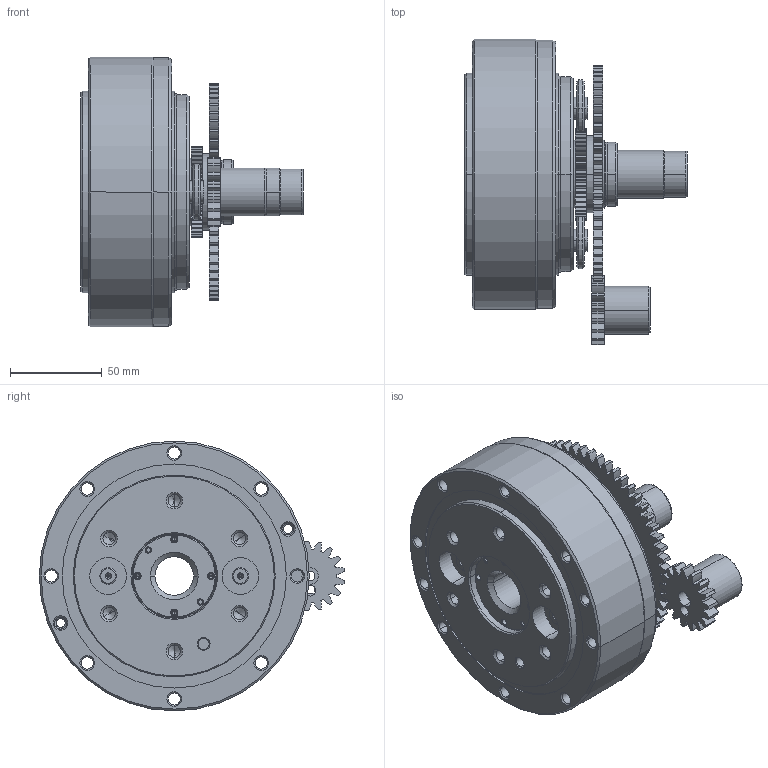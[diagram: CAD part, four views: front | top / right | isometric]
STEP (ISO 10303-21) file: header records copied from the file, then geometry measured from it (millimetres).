
FILE_DESCRIPTION (( 'STEP AP214' ), '1' );
FILE_NAME ('10CBX-90.5-STD-GEAR14.STEP', '2022-11-12T12:34:59', ( '' ), ( '' ), 'SwSTEP 2.0', 'SolidWorks 2020', '' );
FILE_SCHEMA (( 'AUTOMOTIVE_DESIGN' ));
Length unit declared in the file: millimetre
Products named in the file (8): 笢陑喘謫-81-52a.stp; 10CBX-90.5-STD-GEAR14; 錨璃104^10CBX-90.5-STD-GEAR14; 淏喘謫11.stp; 10CBX-90.5-STD-GEAR14.stp; 腴厒奪.stp; 10CBX-OP00.stp; 粣創 61807-2Z GB_T 276-94.stp
Assembly tree (7 placements, depth 3):
  10CBX-90.5-STD-GEAR14
    10CBX-90.5-STD-GEAR14.stp
      10CBX-OP00.stp
      笢陑喘謫-81-52a.stp
      淏喘謫11.stp
      腴厒奪.stp
      粣創 61807-2Z GB_T 276-94.stp
    錨璃104^10CBX-90.5-STD-GEAR14
Bounding box: 121 x 166.32 x 147 mm (x, y, z)
Volume: 872098.5 mm3; surface area: 154299.6 mm2
Topology: 93 solids, 93 shells, 2781 faces, 7529 edges, 4936 vertices
Faces by surface type: plane 1183, cylinder 707, bspline 572, cone 197, torus 80, sphere 42
Entity records: 112648 total; most frequent: CARTESIAN_POINT 44988, ORIENTED_EDGE 14792, DIRECTION 12111, EDGE_CURVE 7396, VERTEX_POINT 4873, LINE 4413, VECTOR 4413, AXIS2_PLACEMENT_3D 3849
